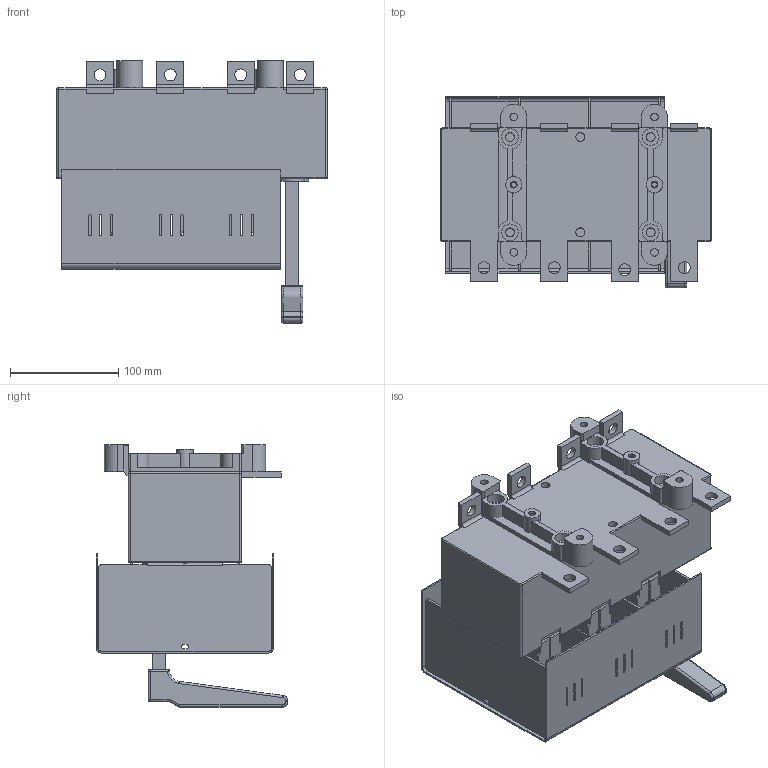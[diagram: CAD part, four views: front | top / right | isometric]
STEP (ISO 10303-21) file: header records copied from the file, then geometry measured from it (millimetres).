
FILE_DESCRIPTION(/* description */ (''),/* implementation_level */ '2;1');
FILE_NAME(/* name */ 'RAB 2 P3 NB-R.stp',/* time_stamp */ '2021-08-19T13:56:02+02:00',/* author */ (''),/* organization */ (''),/* preprocessor_version */ 'ST-DEVELOPER v18.1',/* originating_system */ 'SIEMENS PLM Software NX 1965',/* authorisation */ '');
FILE_SCHEMA (('AUTOMOTIVE_DESIGN { 1 0 10303 214 3 1 1 1 }'));
Length unit declared in the file: millimetre
Products named in the file (1): RAB 2 P3 NB-R_stp
Bounding box: 250 x 177 x 242.3 mm (x, y, z)
Volume: 2501688.3 mm3; surface area: 451132.6 mm2
Topology: 1 solids, 7 shells, 1176 faces, 3191 edges, 2056 vertices
Faces by surface type: plane 745, cylinder 409, torus 13, sphere 6, bspline 3
Full cylindrical faces by diameter (mm): 4.8 x2, 5.2 x18, 6.2 x2, 7 x4, 8.2 x6, 11 x8, 14 x4, 15 x2, 15.5 x4
Entity records: 36890 total; most frequent: CARTESIAN_POINT 6511, DIRECTION 6309, ORIENTED_EDGE 6262, EDGE_CURVE 3131, LINE 2273, VECTOR 2273, VERTEX_POINT 2052, AXIS2_PLACEMENT_3D 2018
